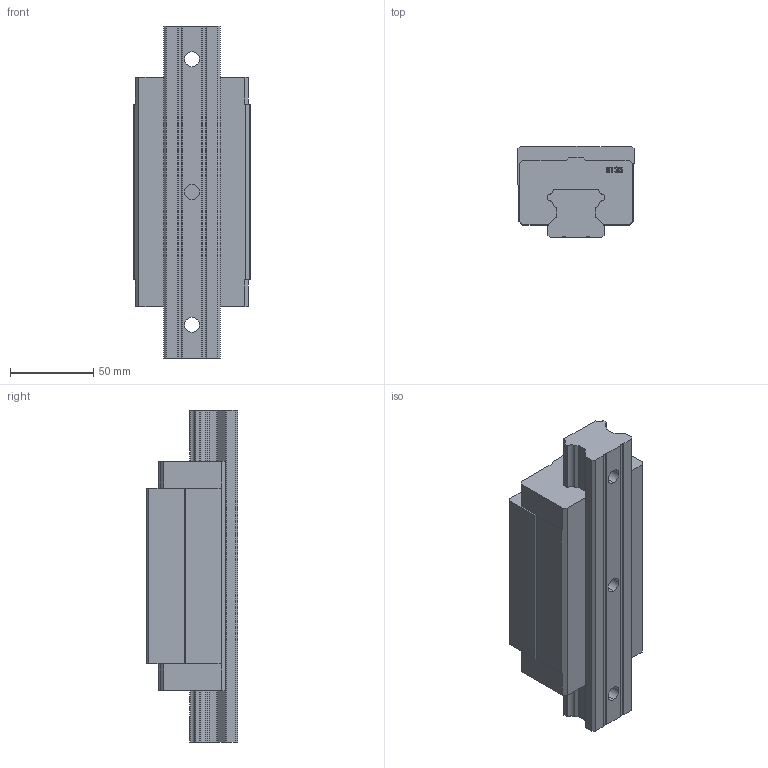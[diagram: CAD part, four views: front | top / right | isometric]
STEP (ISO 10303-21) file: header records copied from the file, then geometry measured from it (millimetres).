
FILE_DESCRIPTION (( 'STEP AP214' ), '1' );
FILE_NAME ('7.1027 Lineaarikelkka HTH35HA.STEP', '2026-03-11T06:57:51', ( '' ), ( '' ), 'SwSTEP 2.0', 'SolidWorks 2025', '' );
FILE_SCHEMA (( 'AUTOMOTIVE_DESIGN' ));
Length unit declared in the file: millimetre
Products named in the file (3): HTR35; 7.1027 Lineaarikelkka HTH35HA; HTH35
Assembly tree (2 placements, depth 2):
  7.1027 Lineaarikelkka HTH35HA
    HTH35
    HTR35
Bounding box: 70 x 55 x 200 mm (x, y, z)
Volume: 508751.1 mm3; surface area: 74958.9 mm2
Topology: 2 solids, 2 shells, 221 faces, 600 edges, 400 vertices
Faces by surface type: plane 158, cylinder 38, bspline 25
Entity records: 11108 total; most frequent: CARTESIAN_POINT 3671, ORIENTED_EDGE 1200, DIRECTION 1028, EDGE_CURVE 600, LINE 474, VECTOR 474, VERTEX_POINT 400, AXIS2_PLACEMENT_3D 277
